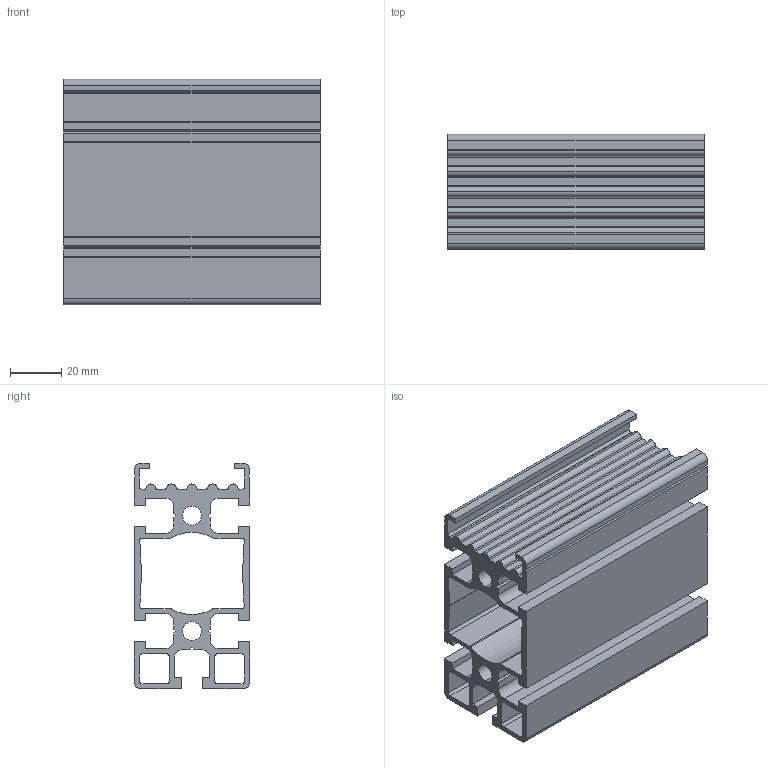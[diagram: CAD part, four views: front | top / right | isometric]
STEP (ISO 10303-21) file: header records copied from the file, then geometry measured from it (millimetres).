
FILE_DESCRIPTION (( 'STEP AP214' ), '1' );
FILE_NAME ('084.108.002.STEP', '2020-07-23T08:17:12', ( '' ), ( '' ), 'SwSTEP 2.0', 'SolidWorks 2018', '' );
FILE_SCHEMA (( 'AUTOMOTIVE_DESIGN' ));
Length unit declared in the file: millimetre
Products named in the file (1): 084.108.002
Bounding box: 100 x 45 x 88 mm (x, y, z)
Volume: 116265.7 mm3; surface area: 79969.3 mm2
Topology: 1 solids, 1 shells, 159 faces, 471 edges, 314 vertices
Faces by surface type: plane 96, cylinder 63
Entity records: 5385 total; most frequent: CARTESIAN_POINT 945, ORIENTED_EDGE 942, DIRECTION 917, EDGE_CURVE 471, VECTOR 345, LINE 345, VERTEX_POINT 314, AXIS2_PLACEMENT_3D 286
